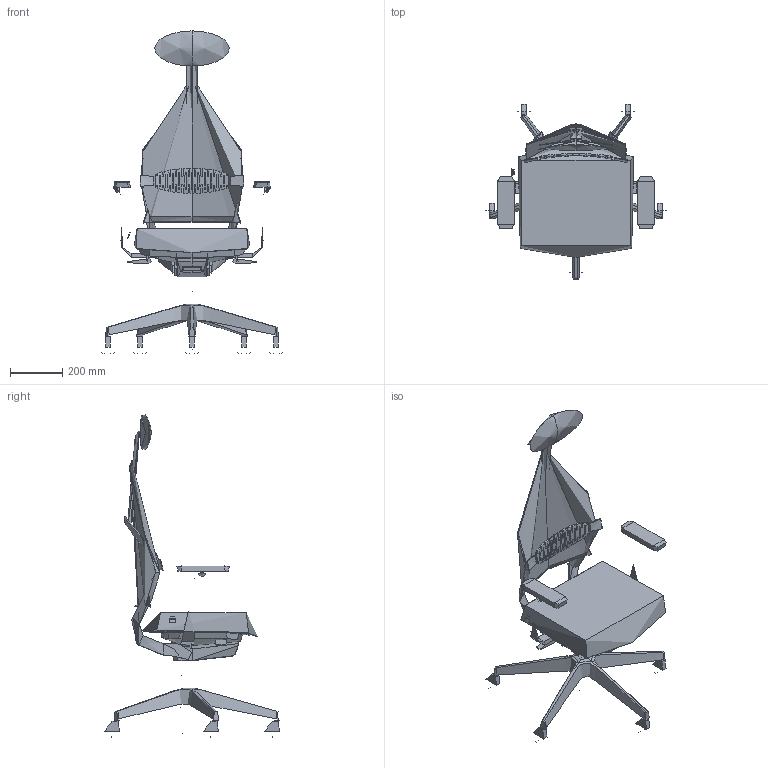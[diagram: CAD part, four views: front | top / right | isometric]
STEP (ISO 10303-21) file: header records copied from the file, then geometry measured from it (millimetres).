
FILE_DESCRIPTION(/* description */ (''),/* implementation_level */ '2;1');
FILE_NAME(/* name */ 'Arcus 240-SYAC,BR',/* time_stamp */ '2023-06-09T23:48:18+02:00',/* author */ (''),/* organization */ (''),/* preprocessor_version */ 'ST-DEVELOPER v16.5',/* originating_system */ 'Rhino 7.29',/* authorisation */ '');
FILE_SCHEMA (('CONFIG_CONTROL_DESIGN'));
Length unit declared in the file: millimetre
Products named in the file (1): Document
Bounding box: 696.72 x 672.99 x 1237.9 mm (x, y, z)
Volume: 1509774.4 mm3; surface area: 2352611.4 mm2
Topology: 17 solids, 74 shells, 860 faces, 2234 edges, 1446 vertices
Faces by surface type: bspline 349, cylinder 276, plane 235
Full cylindrical faces by diameter (mm): 11 x5, 22.353 x1, 28 x1, 46 x1, 50 x1, 57 x1, 60 x4
Entity records: 75784 total; most frequent: CARTESIAN_POINT 61558, ORIENTED_EDGE 4165, EDGE_CURVE 2229, B_SPLINE_CURVE_WITH_KNOTS 1749, VERTEX_POINT 1446, EDGE_LOOP 888, ADVANCED_FACE 860, FACE_OUTER_BOUND 860
